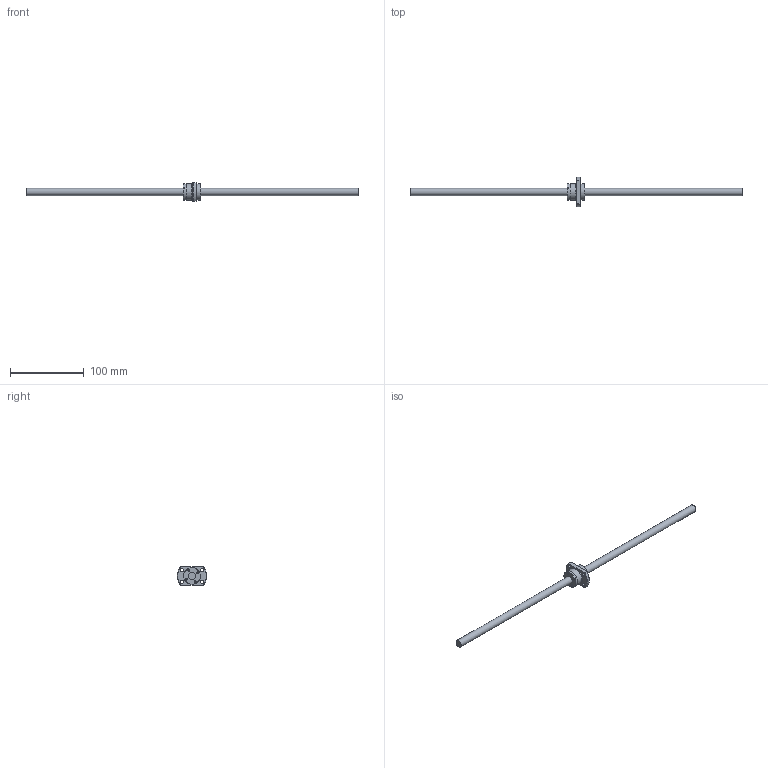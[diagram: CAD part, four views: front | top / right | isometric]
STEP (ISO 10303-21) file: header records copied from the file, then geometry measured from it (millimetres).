
FILE_DESCRIPTION( ( 'STEP AP214' ), ' ' );
FILE_NAME( 'p:/temp/worker_4/1548_2664/app_60_12015091121564023528872260eae72_000000_00_00_000000/format_0/SR1010-450R450C7(213).stp', '2015-09-11T19:56:40', ( '' ), ( '' ), ' ', 'PARTsolutions', ' ' );
FILE_SCHEMA( ( 'AUTOMOTIVE_DESIGN { 1 0 10303 214 1 1 1 1 }' ) );
Length unit declared in the file: millimetre
Products named in the file (3): SR1010-450R450C7(213); _SR1010-450R450C7(213)_shaft; _SR1010-450R450C7C7_nut
Assembly tree (2 placements, depth 2):
  SR1010-450R450C7(213)
    _SR1010-450R450C7(213)_shaft
    _SR1010-450R450C7C7_nut
Bounding box: 450 x 40 x 25 mm (x, y, z)
Volume: 45459.6 mm3; surface area: 18937.6 mm2
Topology: 2 solids, 2 shells, 84 faces, 197 edges, 130 vertices
Faces by surface type: plane 55, cylinder 21, cone 8
Full cylindrical faces by diameter (mm): 2.5 x4, 4.5 x4, 10 x2, 22.5 x3, 23 x2
Entity records: 3056 total; most frequent: CARTESIAN_POINT 417, DIRECTION 400, ORIENTED_EDGE 354, EDGE_CURVE 177, AXIS2_PLACEMENT_3D 144, VERTEX_POINT 129, EDGE_LOOP 126, LINE 112
